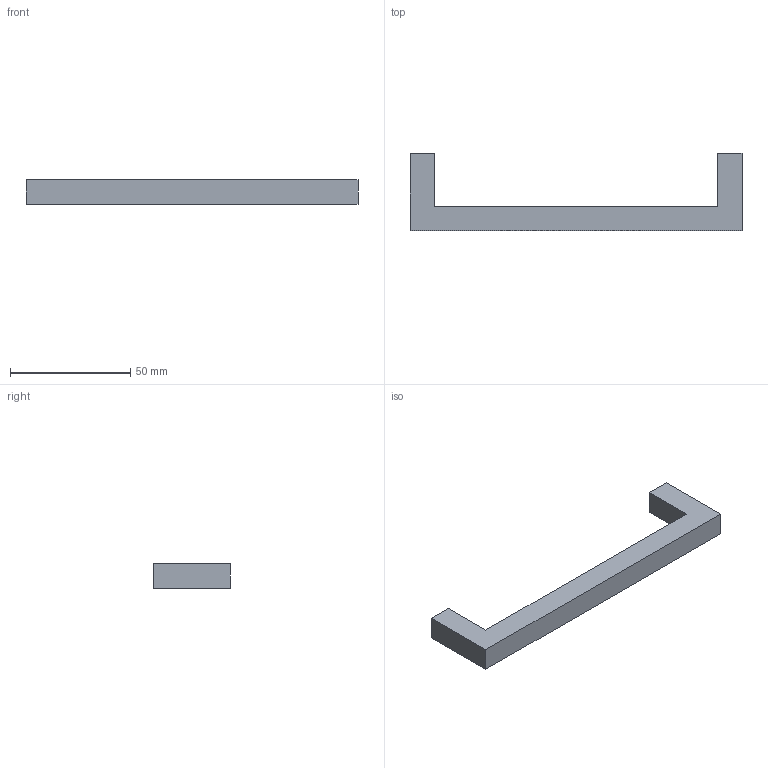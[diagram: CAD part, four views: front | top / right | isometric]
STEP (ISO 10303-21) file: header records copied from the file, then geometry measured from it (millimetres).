
FILE_DESCRIPTION( ( '' ), '1' );
FILE_NAME( 'C:/Documents and Settings/Sachin/Desktop/Sheet 10_1/stp/1160018.stp', '2013-10-22T06:46:08', ( '' ), ( '' ), ' ', ' ', ' ' );
FILE_SCHEMA( ( 'CONFIG_CONTROL_DESIGN' ) );
Length unit declared in the file: millimetre
Products named in the file (1): 1
Bounding box: 138 x 32 x 10 mm (x, y, z)
Volume: 17948.7 mm3; surface area: 7731.3 mm2
Topology: 1 solids, 1 shells, 16 faces, 36 edges, 24 vertices
Faces by surface type: plane 12, cylinder 4
Entity records: 492 total; most frequent: DIRECTION 78, CARTESIAN_POINT 77, ORIENTED_EDGE 72, EDGE_CURVE 36, LINE 28, VECTOR 28, AXIS2_PLACEMENT_3D 25, VERTEX_POINT 24
